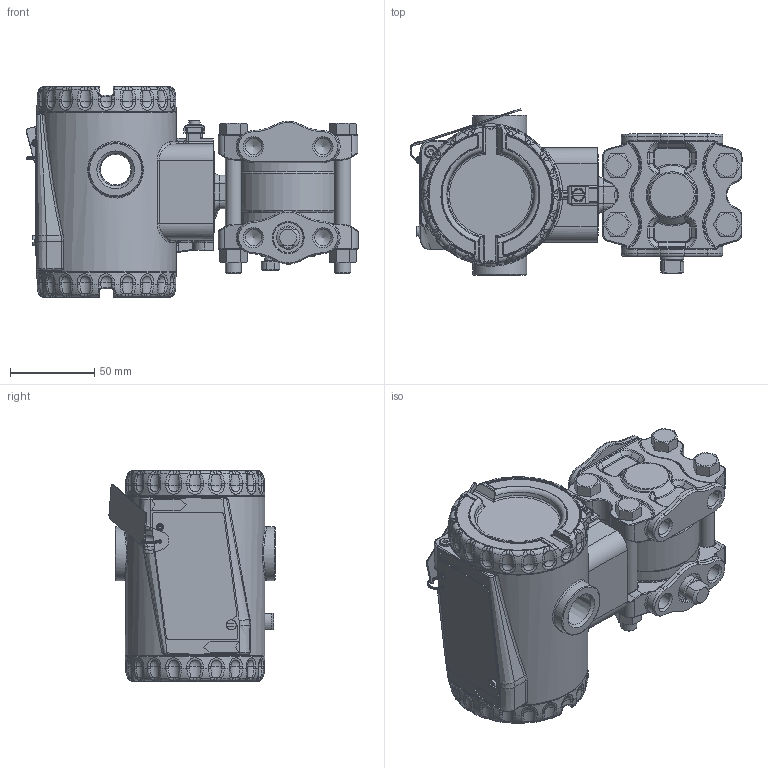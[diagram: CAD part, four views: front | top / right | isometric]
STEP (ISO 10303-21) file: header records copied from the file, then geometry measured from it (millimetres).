
FILE_DESCRIPTION(/* description */ (''),/* implementation_level */ '2;1');
FILE_NAME(/* name */ 'F:\Area\Desenvolvimento_2\Projects\Sensor\projetos\LD400-3d\dimensionais 3D clientes\LD400A0-3 1-4NPT purga acima.stp',/* time_stamp */ '2023-02-01T17:37:29-03:00',/* author */ ('inventor02'),/* organization */ (''),/* preprocessor_version */ 'ST-DEVELOPER v17',/* originating_system */ 'Autodesk Inventor 2019',/* authorisation */ '');
FILE_SCHEMA (('CONFIG_CONTROL_DESIGN'));
Products named in the file (30): LD400A0-3 1-4NPT purga acima; Carcaça 400 com tampas e plaqueta sem letras; 101-D-0845-05 carcaça LD400 sem letras; 101-B-3614-03-tampa 400 sem letras; Tampa visor 400 montada sem letras; 101-B-3612-05 tampa visor 400 sem letras; 101-A-6107; oring 2034; 00034775-0; WHW_250; DIN 915 - M6 x 10; Chapa aterramento externo; 201-A-1771-02 inserto terra recartilhado; AS 1969 - ST4,2; ISO 1207 - M4 x 8; ANSI B18.3.1M - M4x0,7 x 8; Subconjunto plaqueta 400; plaqueta 400 em branco; Parafuso da Plaqueta; Rebite da Plaqueta; 096-A-0169-03; 101-A-0502-01; manometrico standard fx0-3 purga acima; Flange manometrico standard; flange diferencial std purga; bujao 1-4NPT; Sangria; Paraf. 3-8 x 16 UNC; Porca 3-8 x 16 UNC; involucro fx0-3 apos a usinagem final
Assembly tree (36 placements, depth 4):
  LD400A0-3 1-4NPT purga acima
    Carcaça 400 com tampas e plaqueta sem letras
      101-D-0845-05 carcaça LD400 sem letras
      101-B-3614-03-tampa 400 sem letras
      Tampa visor 400 montada sem letras
        101-B-3612-05 tampa visor 400 sem letras
        101-A-6107
        oring 2034
        00034775-0
        WHW_250
      DIN 915 - M6 x 10
      Chapa aterramento externo
      201-A-1771-02 inserto terra recartilhado
      AS 1969 - ST4,2
      ISO 1207 - M4 x 8
      ANSI B18.3.1M - M4x0,7 x 8  x2
      Subconjunto plaqueta 400
        plaqueta 400 em branco
        Parafuso da Plaqueta
        Rebite da Plaqueta
        096-A-0169-03
        101-A-0502-01
    manometrico standard fx0-3 purga acima
      Flange manometrico standard
      flange diferencial std purga
      bujao 1-4NPT
      Sangria
      Paraf. 3-8 x 16 UNC  x4
      Porca 3-8 x 16 UNC  x4
      involucro fx0-3 apos a usinagem final
Bounding box: 197.25 x 98.64 x 125 mm (x, y, z)
Volume: 596081.3 mm3; surface area: 230711.1 mm2
Topology: 32 solids, 32 shells, 2661 faces, 6467 edges, 3854 vertices
Faces by surface type: bspline 667, plane 659, cylinder 617, torus 452, cone 204, sphere 62
Full cylindrical faces by diameter (mm): 2 x3, 2.1 x1, 2.2 x1, 2.459 x3, 2.7 x1, 3 x3, 3.242 x3, 3.571 x1, 4 x4, 4.3 x2, 4.4 x1, 4.917 x1, 5.5 x3, 6 x2, 6.1 x2, 6.2 x1, 6.647 x1, 7 x3, 7.6 x2, 7.798 x4, 8 x1, 9.525 x4, 9.728 x8, 10.5 x8, 10.719 x2, 13.8 x1, 14 x1, 18.3 x2, 18.5 x2, 32 x2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
Entity records: 97818 total; most frequent: CARTESIAN_POINT 38786, ORIENTED_EDGE 12422, DIRECTION 11920, EDGE_CURVE 6211, AXIS2_PLACEMENT_3D 5083, VERTEX_POINT 3728, CIRCLE 2931, EDGE_LOOP 2667
